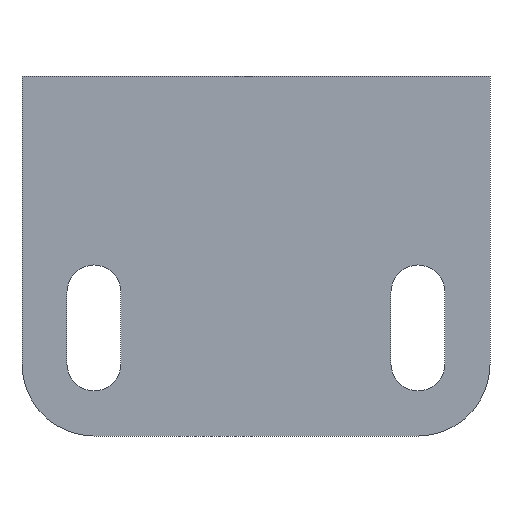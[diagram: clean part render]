
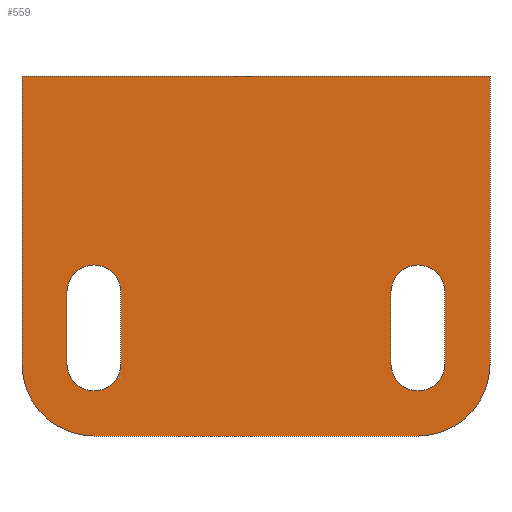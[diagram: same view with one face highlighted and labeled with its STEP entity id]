
A CAD part, front view. The second image highlights one B-rep face of the part: STEP entity #559.
In plain terms, the highlighted planar face has unit normal (0, -1, 0).
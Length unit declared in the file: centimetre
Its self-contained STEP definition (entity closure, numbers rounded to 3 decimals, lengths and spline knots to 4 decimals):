
#185=VERTEX_POINT('',#2107);
#186=VERTEX_POINT('',#2109);
#188=VERTEX_POINT('',#2115);
#190=VERTEX_POINT('',#2121);
#193=VERTEX_POINT('',#2128);
#194=VERTEX_POINT('',#2130);
#196=VERTEX_POINT('',#2136);
#198=VERTEX_POINT('',#2142);
#201=VERTEX_POINT('',#2152);
#202=VERTEX_POINT('',#2154);
#204=VERTEX_POINT('',#2160);
#206=VERTEX_POINT('',#2166);
#221=VERTEX_POINT('',#2212);
#222=VERTEX_POINT('',#2217);
#237=EDGE_CURVE('',#185,#186,#1359,.T.);
#241=EDGE_CURVE('',#185,#188,#663,.T.);
#244=EDGE_CURVE('',#190,#188,#1361,.T.);
#247=EDGE_CURVE('',#194,#193,#667,.T.);
#251=EDGE_CURVE('',#193,#196,#1363,.T.);
#254=EDGE_CURVE('',#196,#198,#672,.T.);
#256=EDGE_CURVE('',#198,#194,#1365,.T.);
#259=EDGE_CURVE('',#202,#201,#675,.T.);
#263=EDGE_CURVE('',#201,#204,#1367,.T.);
#266=EDGE_CURVE('',#204,#206,#680,.T.);
#268=EDGE_CURVE('',#206,#202,#1369,.T.);
#289=EDGE_CURVE('',#190,#221,#695,.T.);
#291=EDGE_CURVE('',#221,#222,#697,.T.);
#292=EDGE_CURVE('',#186,#222,#698,.T.);
#395=ORIENTED_EDGE('',*,*,#256,.T.);
#396=ORIENTED_EDGE('',*,*,#247,.T.);
#397=ORIENTED_EDGE('',*,*,#251,.T.);
#398=ORIENTED_EDGE('',*,*,#254,.T.);
#399=ORIENTED_EDGE('',*,*,#268,.T.);
#400=ORIENTED_EDGE('',*,*,#259,.T.);
#401=ORIENTED_EDGE('',*,*,#263,.T.);
#402=ORIENTED_EDGE('',*,*,#266,.T.);
#403=ORIENTED_EDGE('',*,*,#291,.T.);
#404=ORIENTED_EDGE('',*,*,#292,.F.);
#405=ORIENTED_EDGE('',*,*,#237,.F.);
#406=ORIENTED_EDGE('',*,*,#241,.T.);
#407=ORIENTED_EDGE('',*,*,#244,.F.);
#408=ORIENTED_EDGE('',*,*,#289,.T.);
#483=EDGE_LOOP('',(#395,#396,#397,#398));
#484=EDGE_LOOP('',(#399,#400,#401,#402));
#485=EDGE_LOOP('',(#403,#404,#405,#406,#407,#408));
#523=FACE_BOUND('',#483,.T.);
#524=FACE_BOUND('',#484,.T.);
#525=FACE_BOUND('',#485,.T.);
#559=ADVANCED_FACE('',(#523,#524,#525),#1820,.T.);
#663=LINE('',#2116,#1758);
#667=LINE('',#2129,#1762);
#672=LINE('',#2143,#1767);
#675=LINE('',#2153,#1770);
#680=LINE('',#2167,#1775);
#695=LINE('',#2213,#1790);
#697=LINE('',#2216,#1792);
#698=LINE('',#2218,#1793);
#1359=CIRCLE('',#1658,0.8);
#1361=CIRCLE('',#1662,0.8);
#1363=CIRCLE('',#1666,0.3);
#1365=CIRCLE('',#1670,0.3);
#1367=CIRCLE('',#1674,0.3);
#1369=CIRCLE('',#1678,0.3);
#1658=AXIS2_PLACEMENT_3D('',#2108,#2328,#2329);
#1662=AXIS2_PLACEMENT_3D('',#2122,#2340,#2341);
#1666=AXIS2_PLACEMENT_3D('',#2137,#2352,#2353);
#1670=AXIS2_PLACEMENT_3D('',#2146,#2362,#2363);
#1674=AXIS2_PLACEMENT_3D('',#2161,#2374,#2375);
#1678=AXIS2_PLACEMENT_3D('',#2170,#2384,#2385);
#1692=AXIS2_PLACEMENT_3D('',#2215,#2424,$);
#1758=VECTOR('',#2334,1.);
#1762=VECTOR('',#2345,1.);
#1767=VECTOR('',#2357,1.);
#1770=VECTOR('',#2367,1.);
#1775=VECTOR('',#2379,1.);
#1790=VECTOR('',#2422,1.);
#1792=VECTOR('',#2425,1.);
#1793=VECTOR('',#2426,1.);
#1820=PLANE('',#1692);
#2107=CARTESIAN_POINT('',(-1.8,0.,-3.));
#2108=CARTESIAN_POINT('',(-1.8,0.,-2.2));
#2109=CARTESIAN_POINT('',(-2.6,0.,-2.2));
#2115=CARTESIAN_POINT('',(1.8,0.,-3.));
#2116=CARTESIAN_POINT('',(-1.8,0.,-3.));
#2121=CARTESIAN_POINT('',(2.6,0.,-2.2));
#2122=CARTESIAN_POINT('',(1.8,0.,-2.2));
#2128=CARTESIAN_POINT('',(-1.5,0.,-2.2));
#2129=CARTESIAN_POINT('',(-1.5,0.,-1.4));
#2130=CARTESIAN_POINT('',(-1.5,0.,-1.4));
#2136=CARTESIAN_POINT('',(-2.1,0.,-2.2));
#2137=CARTESIAN_POINT('',(-1.8,0.,-2.2));
#2142=CARTESIAN_POINT('',(-2.1,0.,-1.4));
#2143=CARTESIAN_POINT('',(-2.1,0.,-2.2));
#2146=CARTESIAN_POINT('',(-1.8,0.,-1.4));
#2152=CARTESIAN_POINT('',(2.1,0.,-2.2));
#2153=CARTESIAN_POINT('',(2.1,0.,-1.4));
#2154=CARTESIAN_POINT('',(2.1,0.,-1.4));
#2160=CARTESIAN_POINT('',(1.5,0.,-2.2));
#2161=CARTESIAN_POINT('',(1.8,0.,-2.2));
#2166=CARTESIAN_POINT('',(1.5,0.,-1.4));
#2167=CARTESIAN_POINT('',(1.5,0.,-2.2));
#2170=CARTESIAN_POINT('',(1.8,0.,-1.4));
#2212=CARTESIAN_POINT('',(2.6,0.,1.));
#2213=CARTESIAN_POINT('',(2.6,0.,-2.2));
#2215=CARTESIAN_POINT('',(2.6,0.,0.));
#2216=CARTESIAN_POINT('',(2.6,0.,1.));
#2217=CARTESIAN_POINT('',(-2.6,0.,1.));
#2218=CARTESIAN_POINT('',(-2.6,0.,0.));
#2328=DIRECTION('',(0.,1.,0.));
#2329=DIRECTION('',(0.8,0.,0.));
#2334=DIRECTION('',(1.,0.,0.));
#2340=DIRECTION('',(0.,1.,0.));
#2341=DIRECTION('',(0.8,0.,0.));
#2345=DIRECTION('',(0.,0.,-1.));
#2352=DIRECTION('',(0.,1.,0.));
#2353=DIRECTION('',(0.3,0.,0.));
#2357=DIRECTION('',(0.,0.,1.));
#2362=DIRECTION('',(0.,1.,0.));
#2363=DIRECTION('',(0.3,0.,0.));
#2367=DIRECTION('',(0.,0.,-1.));
#2374=DIRECTION('',(0.,1.,0.));
#2375=DIRECTION('',(0.3,0.,0.));
#2379=DIRECTION('',(0.,0.,1.));
#2384=DIRECTION('',(0.,1.,0.));
#2385=DIRECTION('',(0.3,0.,0.));
#2422=DIRECTION('',(0.,0.,1.));
#2424=DIRECTION('',(0.,-1.,0.));
#2425=DIRECTION('',(-1.,0.,0.));
#2426=DIRECTION('',(0.,0.,1.));
